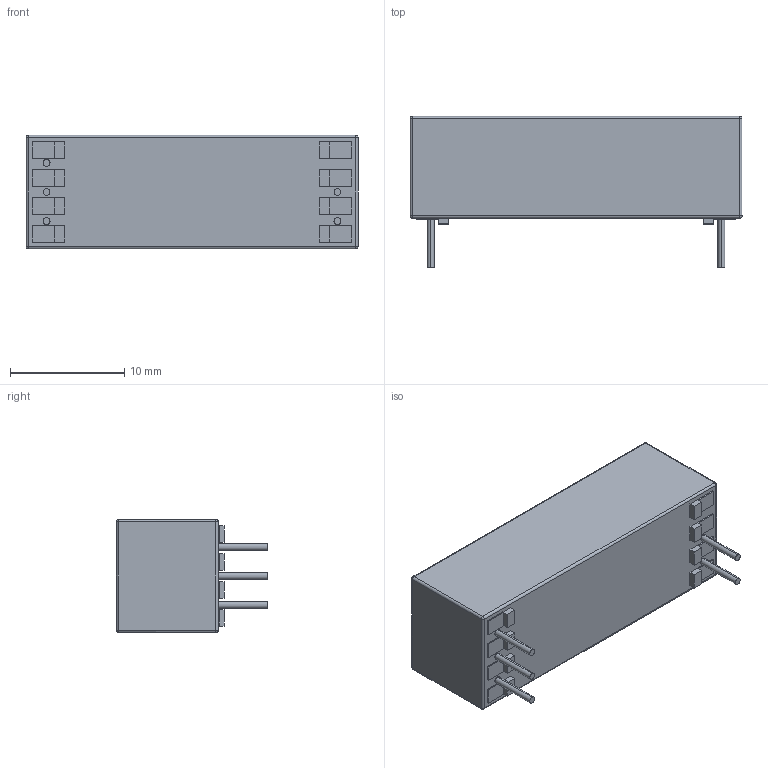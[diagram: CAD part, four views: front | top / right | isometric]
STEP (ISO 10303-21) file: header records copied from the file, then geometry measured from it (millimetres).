
FILE_DESCRIPTION (( 'STEP AP203' ), '1' );
FILE_NAME ('80-1-C.STEP', '2010-06-29T15:19:21', ( ' ' ), ( '' ), 'SwSTEP 2.0', 'SolidWorks 2009', '' );
FILE_SCHEMA (( 'CONFIG_CONTROL_DESIGN' ));
Length unit declared in the file: millimetre
Products named in the file (1): 80-1-C
Bounding box: 29 x 13.2 x 9.9 mm (x, y, z)
Volume: 2563 mm3; surface area: 1311.6 mm2
Topology: 1 solids, 1 shells, 726 faces, 1909 edges, 1256 vertices
Faces by surface type: plane 448, bspline 242, cylinder 26, sphere 10
Entity records: 35224 total; most frequent: CARTESIAN_POINT 18878, ORIENTED_EDGE 3802, DIRECTION 2441, EDGE_CURVE 1901, LINE 1363, VECTOR 1363, VERTEX_POINT 1256, EDGE_LOOP 805
